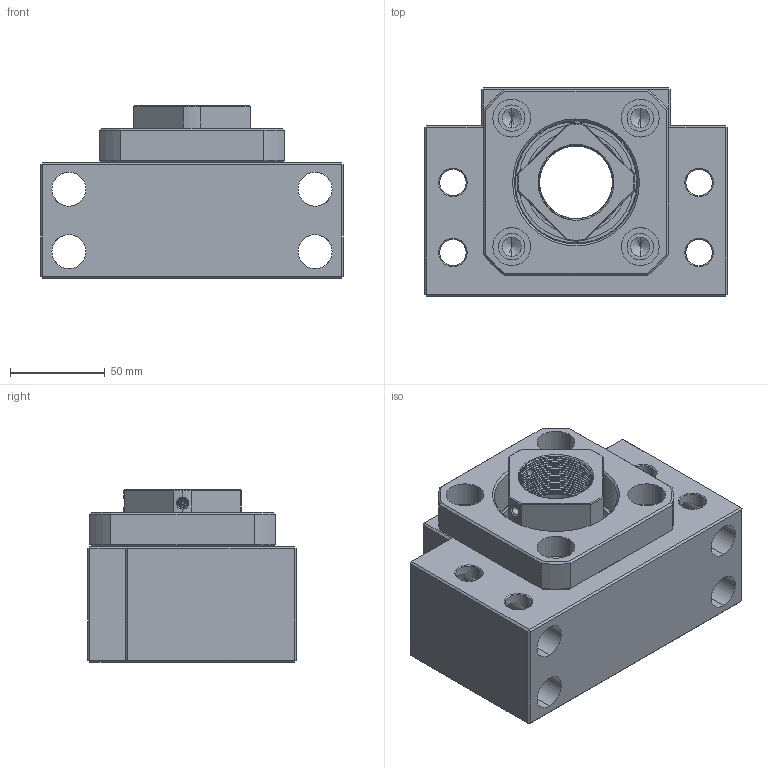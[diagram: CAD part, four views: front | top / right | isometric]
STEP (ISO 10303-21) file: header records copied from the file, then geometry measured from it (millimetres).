
FILE_DESCRIPTION (( 'STEP AP203' ), '1' );
FILE_NAME ('BK40²Õ¦X.STEP', '2010-07-02T00:19:14', ( '' ), ( '' ), 'SwSTEP 2.0', 'SolidWorks 2008', '' );
FILE_SCHEMA (( 'CONFIG_CONTROL_DESIGN' ));
Length unit declared in the file: millimetre
Products named in the file (1): BK40組合
Bounding box: 160 x 110 x 91 mm (x, y, z)
Volume: 836866.1 mm3; surface area: 206661.2 mm2
Topology: 39 solids, 39 shells, 509 faces, 1331 edges, 792 vertices
Faces by surface type: cylinder 168, bspline 144, plane 103, cone 72, sphere 22
Entity records: 21992 total; most frequent: CARTESIAN_POINT 11403, ORIENTED_EDGE 2384, DIRECTION 1938, EDGE_CURVE 1192, AXIS2_PLACEMENT_3D 789, VERTEX_POINT 758, EDGE_LOOP 570, ADVANCED_FACE 508
